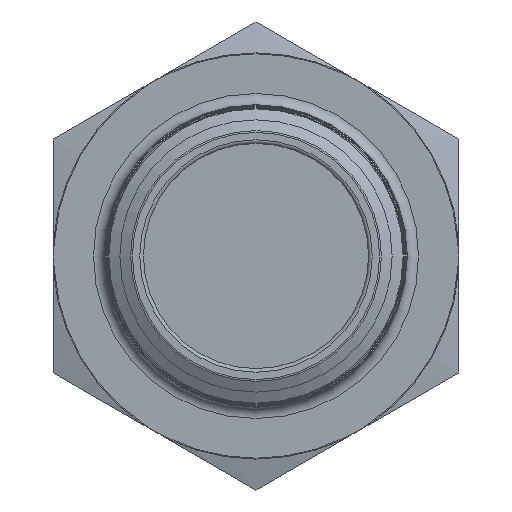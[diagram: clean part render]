
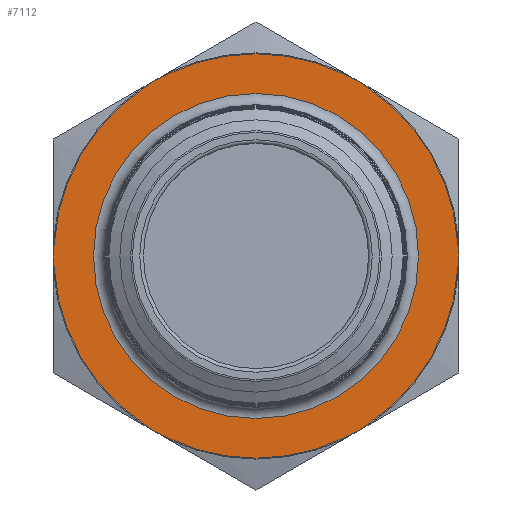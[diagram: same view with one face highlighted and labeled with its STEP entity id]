
A CAD part, left-side view. The second image highlights one B-rep face of the part: STEP entity #7112.
In plain terms, the highlighted planar face has unit normal (-1, 0, 0).
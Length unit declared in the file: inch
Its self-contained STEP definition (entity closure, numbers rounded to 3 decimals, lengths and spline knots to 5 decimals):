
#91=CIRCLE('',#7454,0.56118);
#92=CIRCLE('',#7455,0.56118);
#93=CIRCLE('',#7456,0.56118);
#94=CIRCLE('',#7457,0.56118);
#95=CIRCLE('',#7458,0.56118);
#96=CIRCLE('',#7459,0.56118);
#97=CIRCLE('',#7460,0.451);
#1189=ORIENTED_EDGE('',*,*,#2587,.F.);
#1190=ORIENTED_EDGE('',*,*,#2588,.T.);
#1191=ORIENTED_EDGE('',*,*,#2589,.F.);
#1192=ORIENTED_EDGE('',*,*,#2590,.F.);
#1193=ORIENTED_EDGE('',*,*,#2591,.T.);
#1194=ORIENTED_EDGE('',*,*,#2592,.F.);
#1195=ORIENTED_EDGE('',*,*,#2593,.F.);
#1196=ORIENTED_EDGE('',*,*,#2594,.T.);
#1197=ORIENTED_EDGE('',*,*,#2595,.F.);
#1198=ORIENTED_EDGE('',*,*,#2596,.F.);
#1199=ORIENTED_EDGE('',*,*,#2597,.T.);
#1200=ORIENTED_EDGE('',*,*,#2598,.F.);
#1201=ORIENTED_EDGE('',*,*,#2599,.F.);
#1202=ORIENTED_EDGE('',*,*,#2600,.T.);
#1203=ORIENTED_EDGE('',*,*,#2601,.F.);
#1204=ORIENTED_EDGE('',*,*,#2602,.F.);
#1205=ORIENTED_EDGE('',*,*,#2603,.T.);
#1206=ORIENTED_EDGE('',*,*,#2604,.F.);
#1207=ORIENTED_EDGE('',*,*,#2605,.T.);
#2587=EDGE_CURVE('',#3277,#3278,#91,.T.);
#2588=EDGE_CURVE('',#3277,#3256,#3740,.T.);
#2589=EDGE_CURVE('',#3279,#3256,#3741,.T.);
#2590=EDGE_CURVE('',#3280,#3279,#92,.T.);
#2591=EDGE_CURVE('',#3280,#3249,#3742,.T.);
#2592=EDGE_CURVE('',#3281,#3249,#3743,.T.);
#2593=EDGE_CURVE('',#3282,#3281,#93,.T.);
#2594=EDGE_CURVE('',#3282,#3127,#3744,.T.);
#2595=EDGE_CURVE('',#3283,#3127,#3745,.T.);
#2596=EDGE_CURVE('',#3284,#3283,#94,.T.);
#2597=EDGE_CURVE('',#3284,#3275,#3746,.T.);
#2598=EDGE_CURVE('',#3285,#3275,#3747,.T.);
#2599=EDGE_CURVE('',#3286,#3285,#95,.T.);
#2600=EDGE_CURVE('',#3286,#3270,#3748,.T.);
#2601=EDGE_CURVE('',#3287,#3270,#3749,.T.);
#2602=EDGE_CURVE('',#3288,#3287,#96,.T.);
#2603=EDGE_CURVE('',#3288,#3263,#3750,.T.);
#2604=EDGE_CURVE('',#3278,#3263,#3751,.T.);
#2605=EDGE_CURVE('',#3289,#3289,#97,.T.);
#3127=VERTEX_POINT('',#9262);
#3249=VERTEX_POINT('',#9703);
#3256=VERTEX_POINT('',#9744);
#3263=VERTEX_POINT('',#9785);
#3270=VERTEX_POINT('',#9826);
#3275=VERTEX_POINT('',#9864);
#3277=VERTEX_POINT('',#9876);
#3278=VERTEX_POINT('',#9877);
#3279=VERTEX_POINT('',#9886);
#3280=VERTEX_POINT('',#9888);
#3281=VERTEX_POINT('',#9897);
#3282=VERTEX_POINT('',#9899);
#3283=VERTEX_POINT('',#9908);
#3284=VERTEX_POINT('',#9910);
#3285=VERTEX_POINT('',#9919);
#3286=VERTEX_POINT('',#9921);
#3287=VERTEX_POINT('',#9930);
#3288=VERTEX_POINT('',#9932);
#3289=VERTEX_POINT('',#9942);
#3740=B_SPLINE_CURVE_WITH_KNOTS('',3,(#9878,#9879,#9880,#9881),
 .UNSPECIFIED.,.F.,.F.,(4,4),(0.,0.00096),.UNSPECIFIED.);
#3741=B_SPLINE_CURVE_WITH_KNOTS('',3,(#9882,#9883,#9884,#9885),
 .UNSPECIFIED.,.F.,.F.,(4,4),(0.,0.00096),.UNSPECIFIED.);
#3742=B_SPLINE_CURVE_WITH_KNOTS('',3,(#9889,#9890,#9891,#9892),
 .UNSPECIFIED.,.F.,.F.,(4,4),(0.,0.00096),.UNSPECIFIED.);
#3743=B_SPLINE_CURVE_WITH_KNOTS('',3,(#9893,#9894,#9895,#9896),
 .UNSPECIFIED.,.F.,.F.,(4,4),(0.,0.00096),.UNSPECIFIED.);
#3744=B_SPLINE_CURVE_WITH_KNOTS('',3,(#9900,#9901,#9902,#9903),
 .UNSPECIFIED.,.F.,.F.,(4,4),(0.,0.00096),.UNSPECIFIED.);
#3745=B_SPLINE_CURVE_WITH_KNOTS('',3,(#9904,#9905,#9906,#9907),
 .UNSPECIFIED.,.F.,.F.,(4,4),(0.,0.00096),.UNSPECIFIED.);
#3746=B_SPLINE_CURVE_WITH_KNOTS('',3,(#9911,#9912,#9913,#9914),
 .UNSPECIFIED.,.F.,.F.,(4,4),(0.,0.00096),.UNSPECIFIED.);
#3747=B_SPLINE_CURVE_WITH_KNOTS('',3,(#9915,#9916,#9917,#9918),
 .UNSPECIFIED.,.F.,.F.,(4,4),(0.,0.00096),
 .UNSPECIFIED.);
#3748=B_SPLINE_CURVE_WITH_KNOTS('',3,(#9922,#9923,#9924,#9925),
 .UNSPECIFIED.,.F.,.F.,(4,4),(0.,0.00096),.UNSPECIFIED.);
#3749=B_SPLINE_CURVE_WITH_KNOTS('',3,(#9926,#9927,#9928,#9929),
 .UNSPECIFIED.,.F.,.F.,(4,4),(0.,0.00096),.UNSPECIFIED.);
#3750=B_SPLINE_CURVE_WITH_KNOTS('',3,(#9933,#9934,#9935,#9936),
 .UNSPECIFIED.,.F.,.F.,(4,4),(0.,0.00096),.UNSPECIFIED.);
#3751=B_SPLINE_CURVE_WITH_KNOTS('',3,(#9937,#9938,#9939,#9940),
 .UNSPECIFIED.,.F.,.F.,(4,4),(0.,0.00096),.UNSPECIFIED.);
#3825=EDGE_LOOP('',(#1189,#1190,#1191,#1192,#1193,#1194,#1195,#1196,#1197,
#1198,#1199,#1200,#1201,#1202,#1203,#1204,#1205,#1206));
#3826=EDGE_LOOP('',(#1207));
#4249=FACE_BOUND('',#3825,.T.);
#4250=FACE_BOUND('',#3826,.T.);
#4648=PLANE('',#7453);
#7112=ADVANCED_FACE('',(#4249,#4250),#4648,.F.);
#7453=AXIS2_PLACEMENT_3D('',#9874,#7915,#7916);
#7454=AXIS2_PLACEMENT_3D('',#9875,#7917,#7918);
#7455=AXIS2_PLACEMENT_3D('',#9887,#7919,#7920);
#7456=AXIS2_PLACEMENT_3D('',#9898,#7921,#7922);
#7457=AXIS2_PLACEMENT_3D('',#9909,#7923,#7924);
#7458=AXIS2_PLACEMENT_3D('',#9920,#7925,#7926);
#7459=AXIS2_PLACEMENT_3D('',#9931,#7927,#7928);
#7460=AXIS2_PLACEMENT_3D('',#9941,#7929,#7930);
#7915=DIRECTION('',(1.,0.,0.));
#7916=DIRECTION('',(0.,1.,0.));
#7917=DIRECTION('',(1.,0.,0.));
#7918=DIRECTION('',(0.,1.,0.));
#7919=DIRECTION('',(1.,0.,0.));
#7920=DIRECTION('',(0.,1.,0.));
#7921=DIRECTION('',(1.,0.,0.));
#7922=DIRECTION('',(0.,1.,0.));
#7923=DIRECTION('',(1.,0.,0.));
#7924=DIRECTION('',(0.,1.,0.));
#7925=DIRECTION('',(1.,0.,0.));
#7926=DIRECTION('',(0.,1.,0.));
#7927=DIRECTION('',(1.,0.,0.));
#7928=DIRECTION('',(0.,1.,0.));
#7929=DIRECTION('',(1.,0.,0.));
#7930=DIRECTION('',(0.,1.,0.));
#9262=CARTESIAN_POINT('',(0.716,-0.5625,0.));
#9703=CARTESIAN_POINT('',(0.716,-0.28125,-0.48714));
#9744=CARTESIAN_POINT('',(0.716,0.28125,-0.48714));
#9785=CARTESIAN_POINT('',(0.716,0.5625,0.));
#9826=CARTESIAN_POINT('',(0.716,0.28125,0.48714));
#9864=CARTESIAN_POINT('',(0.716,-0.28125,0.48714));
#9874=CARTESIAN_POINT('',(0.716,0.,0.));
#9875=CARTESIAN_POINT('',(0.716,0.,0.));
#9876=CARTESIAN_POINT('',(0.716,0.31258,-0.46607));
#9877=CARTESIAN_POINT('',(0.716,0.55992,-0.03767));
#9878=CARTESIAN_POINT('',(0.716,0.31258,-0.46607));
#9879=CARTESIAN_POINT('',(0.716,0.30213,-0.47308));
#9880=CARTESIAN_POINT('',(0.716,0.29169,-0.48011));
#9881=CARTESIAN_POINT('',(0.716,0.28125,-0.48714));
#9882=CARTESIAN_POINT('',(0.716,0.24733,-0.50374));
#9883=CARTESIAN_POINT('',(0.716,0.25863,-0.49819));
#9884=CARTESIAN_POINT('',(0.716,0.26994,-0.49267));
#9885=CARTESIAN_POINT('',(0.716,0.28125,-0.48714));
#9886=CARTESIAN_POINT('',(0.716,0.24733,-0.50374));
#9887=CARTESIAN_POINT('',(0.716,0.,0.));
#9888=CARTESIAN_POINT('',(0.716,-0.24733,-0.50374));
#9889=CARTESIAN_POINT('',(0.716,-0.24733,-0.50374));
#9890=CARTESIAN_POINT('',(0.716,-0.25863,-0.49819));
#9891=CARTESIAN_POINT('',(0.716,-0.26994,-0.49267));
#9892=CARTESIAN_POINT('',(0.716,-0.28125,-0.48714));
#9893=CARTESIAN_POINT('',(0.716,-0.31258,-0.46607));
#9894=CARTESIAN_POINT('',(0.716,-0.30213,-0.47308));
#9895=CARTESIAN_POINT('',(0.716,-0.29169,-0.48011));
#9896=CARTESIAN_POINT('',(0.716,-0.28125,-0.48714));
#9897=CARTESIAN_POINT('',(0.716,-0.31258,-0.46607));
#9898=CARTESIAN_POINT('',(0.716,0.,0.));
#9899=CARTESIAN_POINT('',(0.716,-0.55992,-0.03767));
#9900=CARTESIAN_POINT('',(0.716,-0.55992,-0.03767));
#9901=CARTESIAN_POINT('',(0.716,-0.56076,-0.02511));
#9902=CARTESIAN_POINT('',(0.716,-0.56163,-0.01256));
#9903=CARTESIAN_POINT('',(0.716,-0.5625,0.));
#9904=CARTESIAN_POINT('',(0.716,-0.55992,0.03767));
#9905=CARTESIAN_POINT('',(0.716,-0.56076,0.02511));
#9906=CARTESIAN_POINT('',(0.716,-0.56163,0.01256));
#9907=CARTESIAN_POINT('',(0.716,-0.5625,0.));
#9908=CARTESIAN_POINT('',(0.716,-0.55992,0.03767));
#9909=CARTESIAN_POINT('',(0.716,0.,0.));
#9910=CARTESIAN_POINT('',(0.716,-0.31258,0.46607));
#9911=CARTESIAN_POINT('',(0.716,-0.31258,0.46607));
#9912=CARTESIAN_POINT('',(0.716,-0.30213,0.47308));
#9913=CARTESIAN_POINT('',(0.716,-0.29169,0.48011));
#9914=CARTESIAN_POINT('',(0.716,-0.28125,0.48714));
#9915=CARTESIAN_POINT('',(0.716,-0.24733,0.50374));
#9916=CARTESIAN_POINT('',(0.716,-0.25863,0.49819));
#9917=CARTESIAN_POINT('',(0.716,-0.26994,0.49267));
#9918=CARTESIAN_POINT('',(0.716,-0.28125,0.48714));
#9919=CARTESIAN_POINT('',(0.716,-0.24733,0.50374));
#9920=CARTESIAN_POINT('',(0.716,0.,0.));
#9921=CARTESIAN_POINT('',(0.716,0.24733,0.50374));
#9922=CARTESIAN_POINT('',(0.716,0.24733,0.50374));
#9923=CARTESIAN_POINT('',(0.716,0.25863,0.49819));
#9924=CARTESIAN_POINT('',(0.716,0.26994,0.49267));
#9925=CARTESIAN_POINT('',(0.716,0.28125,0.48714));
#9926=CARTESIAN_POINT('',(0.716,0.31258,0.46607));
#9927=CARTESIAN_POINT('',(0.716,0.30213,0.47308));
#9928=CARTESIAN_POINT('',(0.716,0.29169,0.48011));
#9929=CARTESIAN_POINT('',(0.716,0.28125,0.48714));
#9930=CARTESIAN_POINT('',(0.716,0.31258,0.46607));
#9931=CARTESIAN_POINT('',(0.716,0.,0.));
#9932=CARTESIAN_POINT('',(0.716,0.55992,0.03767));
#9933=CARTESIAN_POINT('',(0.716,0.55992,0.03767));
#9934=CARTESIAN_POINT('',(0.716,0.56076,0.02511));
#9935=CARTESIAN_POINT('',(0.716,0.56163,0.01256));
#9936=CARTESIAN_POINT('',(0.716,0.5625,0.));
#9937=CARTESIAN_POINT('',(0.716,0.55992,-0.03767));
#9938=CARTESIAN_POINT('',(0.716,0.56076,-0.02511));
#9939=CARTESIAN_POINT('',(0.716,0.56163,-0.01256));
#9940=CARTESIAN_POINT('',(0.716,0.5625,0.));
#9941=CARTESIAN_POINT('',(0.716,0.,0.));
#9942=CARTESIAN_POINT('',(0.716,0.451,0.));
